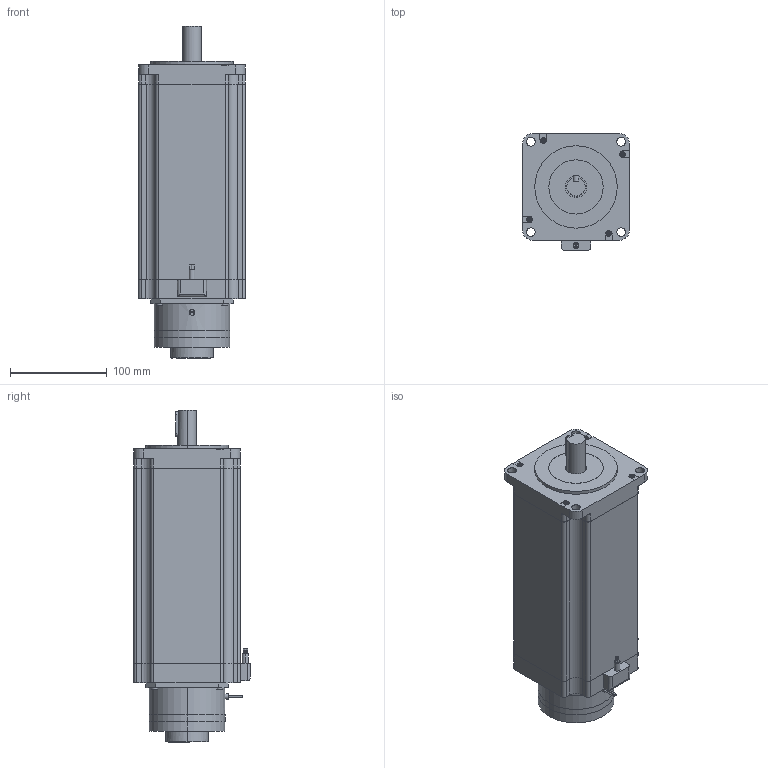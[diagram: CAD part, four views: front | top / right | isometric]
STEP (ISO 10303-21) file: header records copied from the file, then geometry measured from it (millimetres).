
FILE_DESCRIPTION (( 'STEP AP203' ), '1' );
FILE_NAME ('UB110D24-E50-3254.STEP', '2019-10-25T06:18:06', ( 'China' ), ( 'Home' ), 'SwSTEP 2.0', 'SolidWorks 2016', '' );
FILE_SCHEMA (( 'CONFIG_CONTROL_DESIGN' ));
Length unit declared in the file: millimetre
Products named in the file (1): UB110D24-E50-3254
Bounding box: 110 x 120 x 342.5 mm (x, y, z)
Volume: 2944126.4 mm3; surface area: 167178.5 mm2
Topology: 2 solids, 3 shells, 296 faces, 761 edges, 506 vertices
Faces by surface type: plane 186, cylinder 110
Entity records: 9701 total; most frequent: CARTESIAN_POINT 2232, DIRECTION 1532, ORIENTED_EDGE 1522, EDGE_CURVE 761, LINE 536, VECTOR 536, VERTEX_POINT 506, AXIS2_PLACEMENT_3D 498
